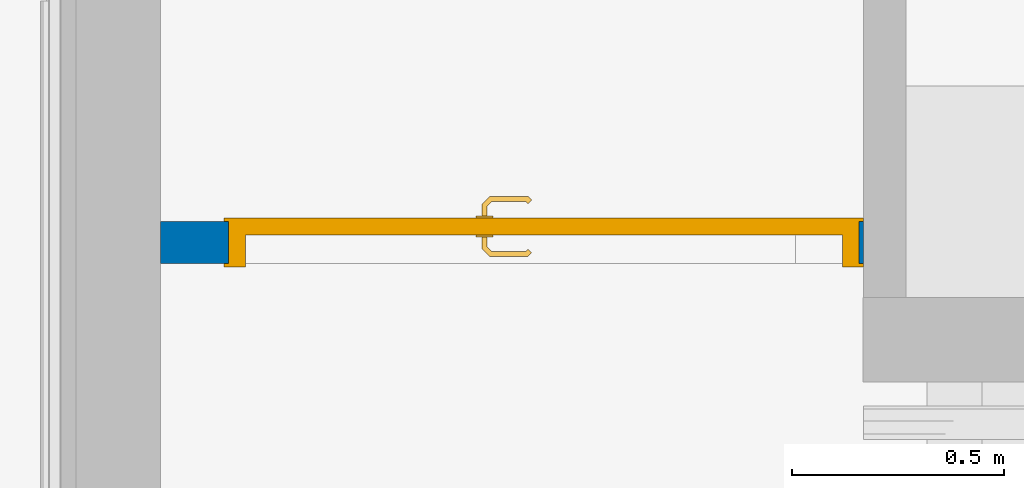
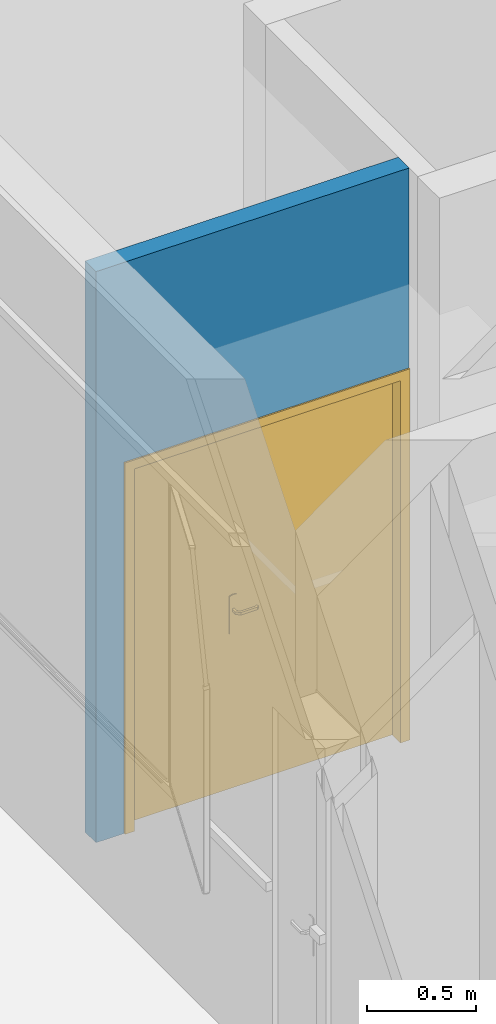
# One storey, part 61 of 137: 1 door, 1 wall, 1 opening.
"""IFC2X3 building model written with IfcOpenShell, lengths in centimetres."""

from ifc_helpers import new_model, entity, si_unit, converted_unit, derived_unit, direction, frame, frame_2d, origin, place, context, subcontext, project, spatial, polyline, rectangle, extrude, clip, bounded_halfspace, faceted_brep, source, transform, mapped, material, material_list, layer, layer_set, layer_usage, type_object, type_shapes, element, fill, save


model = new_model("IFC2X3")

# Units and contexts
model_context = context("Model", 3, precision=0.001, world=origin(), true_north=direction((6.12303176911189e-17, 1.0)))
body_context = subcontext(model_context, "Body", "Model", "MODEL_VIEW")
ifc_project = project(units=[si_unit("LENGTHUNIT", "METRE", prefix="CENTI"), si_unit("AREAUNIT", "SQUARE_METRE"), si_unit("VOLUMEUNIT", "CUBIC_METRE"), converted_unit("PLANEANGLEUNIT", "DEGREE", entity("IfcRatioMeasure", 0.0174532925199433), si_unit("PLANEANGLEUNIT", "RADIAN"), dimensions=[0, 0, 0, 0, 0, 0, 0]), si_unit("MASSUNIT", "GRAM", prefix="KILO"), si_unit("TIMEUNIT", "SECOND"), si_unit("FREQUENCYUNIT", "HERTZ"), si_unit("THERMODYNAMICTEMPERATUREUNIT", "DEGREE_CELSIUS"), derived_unit("THERMALTRANSMITTANCEUNIT", [(si_unit("MASSUNIT", "GRAM", prefix="KILO"), 1), (si_unit("THERMODYNAMICTEMPERATUREUNIT", "KELVIN"), -1), (si_unit("TIMEUNIT", "SECOND"), -3)]), derived_unit("VOLUMETRICFLOWRATEUNIT", [(si_unit("LENGTHUNIT", "METRE"), 3), (si_unit("TIMEUNIT", "SECOND"), -1)]), si_unit("ELECTRICCURRENTUNIT", "AMPERE"), si_unit("ELECTRICVOLTAGEUNIT", "VOLT"), si_unit("POWERUNIT", "WATT"), si_unit("FORCEUNIT", "NEWTON", prefix="KILO"), si_unit("ILLUMINANCEUNIT", "LUX"), si_unit("LUMINOUSFLUXUNIT", "LUMEN"), si_unit("LUMINOUSINTENSITYUNIT", "CANDELA"), derived_unit("USERDEFINED", [(si_unit("MASSUNIT", "GRAM", prefix="KILO"), -1), (si_unit("LENGTHUNIT", "METRE"), -2), (si_unit("TIMEUNIT", "SECOND"), 3), (si_unit("LUMINOUSFLUXUNIT", "LUMEN"), 1)]), derived_unit("LINEARVELOCITYUNIT", [(si_unit("LENGTHUNIT", "METRE"), 1), (si_unit("TIMEUNIT", "SECOND"), -1)]), si_unit("PRESSUREUNIT", "PASCAL"), derived_unit("USERDEFINED", [(si_unit("LENGTHUNIT", "METRE"), -2), (si_unit("MASSUNIT", "GRAM", prefix="KILO"), 1), (si_unit("TIMEUNIT", "SECOND"), -2)])], contexts=[model_context])

# Site, building, storey
site_placement = place(None, frame((8.62739174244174, -249.285249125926, 0.0)))
site = spatial("IfcSite", under=ifc_project, at=site_placement, Name="Default", CompositionType="ELEMENT")
building_placement = place(site_placement, origin())
building = spatial("IfcBuilding", under=site, at=building_placement, CompositionType="ELEMENT")
storey_placement = place(building_placement, origin())
storey = spatial("IfcBuildingStorey", under=building, at=storey_placement, Name="RDC", CompositionType="ELEMENT", Elevation=-8.82465566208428e-11)

# Wall, opening, door
ifc_material_1 = material(Name="Stuc")
ifc_layer = layer(ifc_material_1, 10.0)
ifc_layer_set = layer_set([ifc_layer], Name="Mur de base:CIM 10")
ifc_layer_usage = layer_usage(ifc_layer_set, "AXIS2", "NEGATIVE", 5.0)
wall_type = type_object("IfcWallType", Name="Mur de base:CIM 10", PredefinedType="STANDARD", material=ifc_layer_set)
wall_placement = place(storey_placement, frame((3219.90485656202, 4890.97931224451, 0.0), z_axis=(0.0, 0.0, 1.0), x_axis=(-1.0, 5.75188619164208e-06, 0.0)))
wall = element("IfcWallStandardCase", 1, at=wall_placement, inside=storey, type_object=wall_type, material=ifc_layer_usage, Name="Mur de base:CIM 10", ObjectType="Mur de base:CIM 10", context=body_context, shape_type="Clipping", body=[
    clip(extrude(rectangle(XDim=166.000057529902, YDim=10.0000000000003, at=frame_2d((83.0000287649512, 1.61648472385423e-13), x_axis=(-1.0, 0.0))), origin(), (0.0, 0.0, 1.0), 320.000000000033), bounded_halfspace(frame((5.75188621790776e-05, -5.0, 320.0), z_axis=(0.0, 0.0, -1.0), x_axis=(5.75188619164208e-06, -1.0, 0.0)), True, frame((5.75188621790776e-05, -5.0, 320.0)), polyline([(0.0, 0.0), (166.0, 0.0), (165.999942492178, 10.0), (-5.75188619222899e-05, 10.0), (0.0, 0.0)]))),
])
opening_placement = place(wall_placement, frame((150.000028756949, 4.99957148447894, 0.0)))
opening = element("IfcOpeningElement", 2, at=opening_placement, cuts=wall, Name="Tierce(R)_bois_mu:143 x 204 cm:1", ObjectType="Opening", context=body_context, shape_type="SweptSolid", body=[
    extrude(rectangle(XDim=206.999999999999, YDim=149.0, at=frame_2d((103.499999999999, 74.4999999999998), x_axis=(1.0, 0.0))), frame((0.0, 0.0, 0.0), z_axis=(-5.75188619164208e-06, -1.0, 0.0), x_axis=(0.0, 0.0, 1.0)), (0.0, 0.0, 1.0), 10.0),
])
ifc_material_2 = material(Name="Aluminium-Dorma Metal-Anodized Silver")
ifc_material_3 = material(Name="Porte - Cadre")
ifc_material_4 = material(Name="Porte - Panneau")
ifc_material_list_1 = material_list([ifc_material_2, ifc_material_3, ifc_material_4])
ifc_material_list_2 = material_list([ifc_material_2, ifc_material_3, ifc_material_4])
door_style = type_object("IfcDoorStyle", Name="143 x 204 cm", ConstructionType="NOTDEFINED", OperationType="NOTDEFINED", ParameterTakesPrecedence=False, Sizeable=False, material=ifc_material_list_2)
shared_shape = source(origin(), body_context, "Body", "Brep", [
    faceted_brep([(88.7025298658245, 3.69999999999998, 100.778044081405), (88.2974701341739, 3.69999999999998, 100.778044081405), (87.8999999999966, 3.69999999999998, 100.699999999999), (87.8999999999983, 3.69999999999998, 99.3000000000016), (88.2974701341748, 3.69999999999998, 99.2219559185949), (88.7025298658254, 3.69999999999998, 99.2219559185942), (89.1000000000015, 3.69999999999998, 99.2999999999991), (89.1000000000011, 3.69999999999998, 100.699999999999), (87.8999999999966, 5.94852045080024, 100.699999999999), (87.8999999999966, 5.94852045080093, 99.3000000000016), (88.2974701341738, 6.1131579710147, 100.778044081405), (88.7025298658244, 6.2809392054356, 100.778044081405), (87.0838906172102, 7.89957845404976, 100.778044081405), (86.9161093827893, 7.49451872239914, 100.778044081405), (78.5793122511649, 7.49451872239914, 100.778044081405), (78.411531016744, 7.89957845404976, 100.778044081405), (77.6451046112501, 7.13315204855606, 100.778044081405), (77.9315250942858, 6.84673156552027, 100.778044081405), (89.1000000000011, 6.44557672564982, 100.699999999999), (89.1000000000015, 6.44557672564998, 99.2999999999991), (88.7025298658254, 6.28093920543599, 99.2219559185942), (88.2974701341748, 6.11315797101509, 99.2219559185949), (86.9161093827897, 7.49451872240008, 99.2219559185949), (87.0838906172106, 7.8995784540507, 99.2219559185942), (78.4115310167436, 7.8995784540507, 99.2219559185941), (78.5793122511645, 7.49451872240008, 99.2219559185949), (77.9315250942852, 6.84673156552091, 99.2219559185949), (77.6451046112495, 7.1331520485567, 99.2219559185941), (86.7514718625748, 7.09704858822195, 100.699999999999), (86.7514718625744, 7.09704858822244, 99.3000000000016), (87.2485281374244, 8.29704858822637, 100.699999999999), (87.2485281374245, 8.29704858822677, 99.2999999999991), (82.7477108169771, 7.09704858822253, 100.699999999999), (78.7439497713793, 7.09704858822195, 100.699999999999), (78.7439497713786, 7.09704858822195, 99.3000000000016), (82.7477108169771, 7.09704858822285, 99.3000000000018), (82.7477108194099, 7.71249275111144, 100.787811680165), (82.2399422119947, 8.29704858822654, 100.699999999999), (78.2468934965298, 8.29704858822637, 100.699999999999), (83.2554791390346, 8.29704858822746, 99.2999999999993), (78.2468934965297, 8.29704858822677, 99.2999999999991), (82.7477107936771, 7.71249274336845, 99.2121883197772), (77.3640507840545, 7.41420587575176, 100.699999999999), (77.364050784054, 7.41420587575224, 99.2999999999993), (78.2125789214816, 6.5656777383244, 99.3000000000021), (78.2125789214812, 6.56567773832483, 100.699999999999)], [[[0, 1, 2, 3, 4, 5, 6, 7]], [[8, 9, 3, 2]], [[1, 10, 8, 2]], [[1, 0, 11, 12, 13, 10]], [[14, 15, 16, 17]], [[7, 18, 11, 0]], [[18, 7, 6, 19]], [[6, 5, 20, 19]], [[5, 4, 21, 22, 23, 20]], [[24, 25, 26, 27]], [[4, 3, 9, 21]], [[28, 29, 9, 8]], [[8, 10, 13, 28]], [[18, 30, 12, 11]], [[31, 30, 18, 19]], [[19, 20, 23, 31]], [[21, 9, 29, 22]], [[29, 28, 32, 33, 34, 35]], [[36, 32, 13]], [[37, 38, 15]], [[37, 12, 30]], [[36, 12, 37]], [[14, 32, 36]], [[36, 15, 14]], [[28, 13, 32]], [[32, 14, 33]], [[12, 36, 13]], [[15, 36, 37]], [[30, 31, 39, 40, 38, 37]], [[23, 41, 39]], [[24, 39, 41]], [[39, 31, 23]], [[39, 24, 40]], [[22, 35, 41]], [[41, 23, 22]], [[41, 35, 25]], [[35, 22, 29]], [[34, 25, 35]], [[24, 41, 25]], [[17, 16, 42, 43, 27, 26, 44, 45]], [[45, 44, 34, 33]], [[33, 14, 17, 45]], [[15, 38, 42, 16]], [[43, 42, 38, 40]], [[24, 27, 43, 40]], [[34, 44, 26, 25]]]),
    faceted_brep([(88.2974701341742, -1.30000000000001, 100.778044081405), (88.7025298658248, -1.30000000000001, 100.778044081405), (89.1000000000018, -1.30000000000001, 100.699999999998), (89.1000000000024, -1.30000000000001, 99.2999999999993), (88.7025298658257, -1.30000000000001, 99.2219559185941), (88.297470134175, -1.30000000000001, 99.2219559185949), (87.899999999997, -1.30000000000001, 99.3000000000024), (87.8999999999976, -1.30000000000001, 100.699999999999), (88.7025298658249, -3.90045754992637, 100.778044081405), (89.100000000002, -4.06509507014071, 100.699999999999), (88.2974701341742, -3.73267631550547, 100.778044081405), (86.9298602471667, -5.10028620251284, 100.778044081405), (87.0976414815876, -5.50534593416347, 100.778044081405), (78.4142453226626, -5.50534593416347, 100.778044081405), (78.5820265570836, -5.10028620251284, 100.778044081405), (77.9342394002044, -4.4524990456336, 100.778044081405), (77.6478189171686, -4.73891952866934, 100.778044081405), (87.8999999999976, -3.56803879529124, 100.699999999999), (87.899999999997, -3.56803879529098, 99.3000000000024), (88.297470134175, -3.7326763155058, 99.2219559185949), (88.7025298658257, -3.9004575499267, 99.2219559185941), (87.097641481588, -5.50534593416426, 99.2219559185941), (86.9298602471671, -5.10028620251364, 99.2219559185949), (78.5820265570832, -5.10028620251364, 99.2219559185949), (78.4142453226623, -5.50534593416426, 99.2219559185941), (77.6478189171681, -4.73891952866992, 99.2219559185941), (77.9342394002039, -4.45249904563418, 99.2219559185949), (89.1000000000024, -4.06509507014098, 99.2999999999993), (87.2622790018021, -5.90281606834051, 100.699999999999), (86.7652227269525, -4.70281606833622, 100.699999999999), (86.7652227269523, -4.70281606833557, 99.3000000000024), (87.2622790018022, -5.90281606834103, 99.2999999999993), (82.7559433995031, -5.31828027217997, 100.787811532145), (83.269230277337, -5.90281606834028, 100.699999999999), (78.2496078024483, -5.90281606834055, 100.699999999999), (82.755943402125, -4.70281606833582, 100.699999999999), (78.7466640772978, -4.70281606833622, 100.699999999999), (82.7559436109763, -4.70281606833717, 99.3000000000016), (78.7466640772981, -4.70281606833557, 99.3000000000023), (82.7559434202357, -5.31828027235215, 99.2121884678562), (82.2426572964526, -5.90281606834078, 99.2999999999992), (78.249607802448, -5.90281606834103, 99.2999999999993), (78.2152932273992, -4.17144521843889, 99.3000000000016), (77.366765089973, -5.01997335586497, 99.2999999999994), (77.3667650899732, -5.01997335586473, 100.699999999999), (78.2152932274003, -4.17144521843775, 100.699999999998)], [[[0, 1, 2, 3, 4, 5, 6, 7]], [[2, 1, 8, 9]], [[1, 0, 10, 11, 12, 8]], [[13, 14, 15, 16]], [[0, 7, 17, 10]], [[18, 17, 7, 6]], [[5, 19, 18, 6]], [[5, 4, 20, 21, 22, 19]], [[23, 24, 25, 26]], [[3, 27, 20, 4]], [[9, 27, 3, 2]], [[9, 8, 12, 28]], [[10, 17, 29, 11]], [[30, 29, 17, 18]], [[18, 19, 22, 30]], [[20, 27, 31, 21]], [[28, 31, 27, 9]], [[12, 32, 33]], [[13, 33, 32]], [[33, 28, 12]], [[33, 13, 34]], [[11, 35, 32]], [[32, 12, 11]], [[32, 35, 14]], [[35, 11, 29]], [[36, 14, 35]], [[13, 32, 14]], [[29, 30, 37, 38, 36, 35]], [[39, 37, 22]], [[40, 41, 24]], [[40, 21, 31]], [[39, 21, 40]], [[23, 37, 39]], [[39, 24, 23]], [[30, 22, 37]], [[37, 23, 38]], [[21, 39, 22]], [[24, 39, 40]], [[31, 28, 33, 34, 41, 40]], [[42, 26, 25, 43, 44, 16, 15, 45]], [[13, 16, 44, 34]], [[36, 45, 15, 14]], [[42, 45, 36, 38]], [[38, 23, 26, 42]], [[24, 41, 43, 25]], [[44, 43, 41, 34]]]),
    faceted_brep([(88.4999999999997, 3.19999999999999, 86.4641016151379), (89.5352761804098, 3.19999999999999, 86.6003983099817), (90.4999999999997, 3.19999999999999, 87.0), (90.4999999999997, 3.19999999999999, 108.0), (89.5352761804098, 3.19999999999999, 108.399601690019), (88.4999999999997, 3.19999999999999, 108.535898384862), (87.4647238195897, 3.19999999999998, 108.399601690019), (86.4999999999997, 3.19999999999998, 108.0), (86.4999999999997, 3.19999999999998, 87.0), (87.4647238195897, 3.19999999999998, 86.6003983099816), (88.4999999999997, 3.69999999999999, 108.535898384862), (89.5352761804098, 3.69999999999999, 108.399601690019), (90.4999999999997, 3.69999999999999, 108.0), (90.4999999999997, 3.69999999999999, 87.0), (89.5352761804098, 3.69999999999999, 86.6003983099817), (88.4999999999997, 3.69999999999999, 86.4641016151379), (87.4647238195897, 3.69999999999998, 86.6003983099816), (86.4999999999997, 3.69999999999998, 87.0), (86.4999999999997, 3.69999999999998, 108.0), (87.4647238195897, 3.69999999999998, 108.399601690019)], [[[0, 1, 2, 3, 4, 5, 6, 7, 8, 9]], [[10, 11, 12, 13, 14, 15, 16, 17, 18, 19]], [[6, 19, 18, 7]], [[5, 10, 19, 6]], [[4, 11, 10, 5]], [[4, 3, 12, 11]], [[12, 3, 2, 13]], [[1, 14, 13, 2]], [[0, 15, 14, 1]], [[9, 16, 15, 0]], [[9, 8, 17, 16]], [[17, 8, 7, 18]]]),
    faceted_brep([(88.4999999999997, -1.30000000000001, 86.4641016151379), (89.5352761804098, -1.30000000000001, 86.6003983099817), (90.4999999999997, -1.3, 87.0), (90.4999999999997, -1.3, 108.0), (89.5352761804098, -1.30000000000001, 108.399601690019), (88.4999999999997, -1.30000000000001, 108.535898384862), (87.4647238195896, -1.30000000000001, 108.399601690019), (86.4999999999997, -1.30000000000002, 108.0), (86.4999999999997, -1.30000000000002, 87.0), (87.4647238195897, -1.30000000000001, 86.6003983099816), (90.4999999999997, -0.800000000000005, 108.0), (90.4999999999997, -0.800000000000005, 87.0), (89.5352761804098, -0.800000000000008, 86.6003983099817), (88.4999999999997, -0.800000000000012, 86.4641016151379), (87.4647238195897, -0.800000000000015, 86.6003983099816), (86.4999999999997, -0.800000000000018, 87.0), (86.4999999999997, -0.800000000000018, 108.0), (87.4647238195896, -0.800000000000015, 108.399601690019), (88.4999999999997, -0.800000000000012, 108.535898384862), (89.5352761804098, -0.800000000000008, 108.399601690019)], [[[0, 1, 2, 3, 4, 5, 6, 7, 8, 9]], [[10, 11, 12, 13, 14, 15, 16, 17, 18, 19]], [[1, 12, 11, 2]], [[0, 13, 12, 1]], [[9, 14, 13, 0]], [[9, 8, 15, 14]], [[15, 8, 7, 16]], [[6, 17, 16, 7]], [[5, 18, 17, 6]], [[4, 19, 18, 5]], [[4, 3, 10, 19]], [[10, 3, 2, 11]]]),
    faceted_brep([(0.0, 0.0, 0.0), (0.0, 10.0, 0.0), (-1.0, 10.0, 0.0), (-1.0, 10.8000000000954, 0.0), (4.0, 10.8000000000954, 0.0), (4.0, 3.2, 0.0), (3.0, 3.2, 0.0), (3.0, -0.799999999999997, 0.0), (-1.0, -0.799999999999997, 0.0), (-1.0, 0.0, 0.0), (0.0, 0.0, 207.0), (0.0, 10.0, 207.0), (149.0, 10.0, 207.0), (149.0, 10.0, 0.0), (150.0, 10.0, 0.0), (150.0, 10.0, 208.0), (-1.0, 10.0, 208.0), (-1.0, 10.8000000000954, 208.0), (150.0, 10.8000000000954, 208.0), (150.0, 10.8000000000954, 0.0), (145.0, 10.8000000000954, 0.0), (145.0, 10.8000000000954, 203.0), (4.0, 10.8000000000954, 203.0), (4.0, 3.2, 203.0), (145.0, 3.2, 203.0), (145.0, 3.2, 0.0), (146.0, 3.2, 0.0), (146.0, 3.2, 204.0), (3.0, 3.2, 204.0), (3.0, -0.799999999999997, 204.0), (146.0, -0.799999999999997, 204.0), (146.0, -0.799999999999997, 0.0), (150.0, -0.799999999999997, 0.0), (150.0, -0.799999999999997, 208.0), (-1.0, -0.799999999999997, 208.0), (-1.0, 0.0, 208.0), (150.0, 0.0, 208.0), (150.0, 0.0, 0.0), (149.0, 0.0, 0.0), (149.0, 0.0, 207.0)], [[[0, 1, 2, 3, 4, 5, 6, 7, 8, 9]], [[1, 0, 10, 11]], [[2, 1, 11, 12, 13, 14, 15, 16]], [[3, 2, 16, 17]], [[4, 3, 17, 18, 19, 20, 21, 22]], [[5, 4, 22, 23]], [[6, 5, 23, 24, 25, 26, 27, 28]], [[7, 6, 28, 29]], [[8, 7, 29, 30, 31, 32, 33, 34]], [[9, 8, 34, 35]], [[0, 9, 35, 36, 37, 38, 39, 10]], [[12, 39, 38, 13]], [[38, 37, 32, 31, 26, 25, 20, 19, 14, 13]], [[18, 15, 14, 19]], [[24, 21, 20, 25]], [[30, 27, 26, 31]], [[36, 33, 32, 37]], [[11, 10, 39, 12]], [[17, 16, 15, 18]], [[23, 22, 21, 24]], [[29, 28, 27, 30]], [[35, 34, 33, 36]]]),
    faceted_brep([(146.0, -0.799999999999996, 204.0), (94.0, -0.799999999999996, 204.0), (94.0, -0.799999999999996, 0.0), (146.0, -0.799999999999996, 0.0), (146.0, 3.2, 204.0), (146.0, 3.2, 0.0), (94.0, 3.2, 0.0), (94.0, 3.2, 204.0)], [[[0, 1, 2, 3]], [[4, 5, 6, 7]], [[1, 0, 4, 7]], [[2, 1, 7, 6]], [[3, 2, 6, 5]], [[0, 3, 5, 4]]]),
    faceted_brep([(3.0, -0.799999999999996, 0.0), (94.0, -0.799999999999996, 0.0), (94.0, -0.799999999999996, 204.0), (3.0, -0.799999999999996, 204.0), (3.0, 3.2, 0.0), (3.0, 3.2, 204.0), (94.0, 3.2, 204.0), (94.0, 3.2, 0.0)], [[[0, 1, 2, 3]], [[4, 5, 6, 7]], [[1, 0, 4, 7]], [[2, 1, 7, 6]], [[3, 2, 6, 5]], [[0, 3, 5, 4]]]),
])
type_shapes(door_style, [shared_shape])
door_placement = place(opening_placement, frame((-149.0, -9.99957723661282, 0.0)))
door = element("IfcDoor", 3, at=door_placement, inside=storey, type_object=door_style, material=ifc_material_list_1, Name="Tierce(R)_bois_mu:143 x 204 cm", ObjectType="143 x 204 cm", OverallHeight=206.999999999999, OverallWidth=149.0, context=body_context, shape_type="MappedRepresentation", body=[
    mapped(shared_shape, transform((0.0, 0.0, 0.0), scale=1.0)),
])
fill(opening, door)

save(model, "model.ifc")
